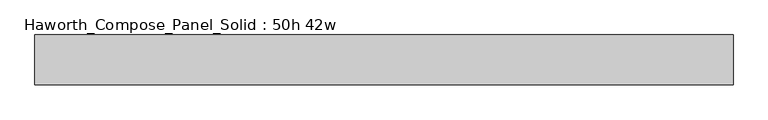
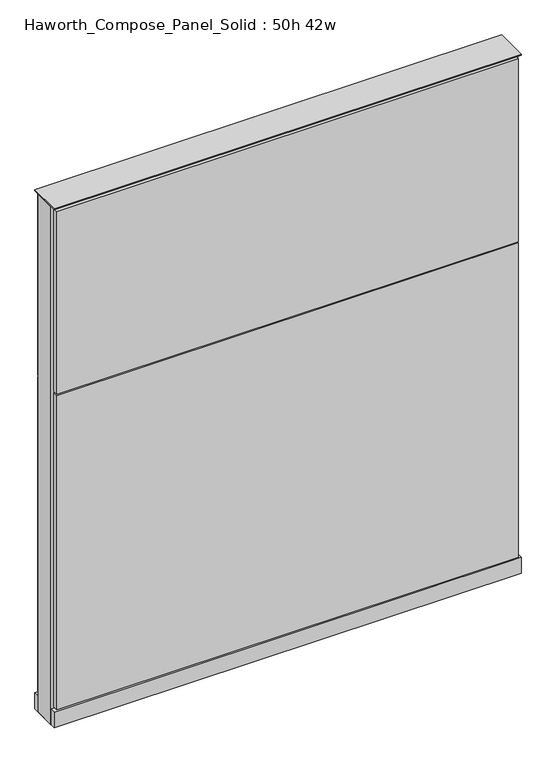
"""IFC4 building model written with IfcOpenShell, lengths in millimetres: furniture geometry, Haworth_Compose_Panel_Solid : 50h 42w."""

from ifc_helpers import new_model, si_unit, point, frame, frame_2d, origin, origin_with_axes, place, context, project, spatial, polyline, circle_curve, trimmed, segment, composite_curve, outline, extrude, source, transform, mapped, element, save


def haworth_compose_panel_solid_50h_42w_a5b8c81b(model_context):
    return source(origin(), model_context, "Body", "SweptSolid", [
        extrude(outline(composite_curve([segment(trimmed(circle_curve(frame_2d((-454.7597098, 0.0)), 12.7), [point((-467.4597098, 0.0))], [point((-442.0597098, 0.0))], False, "CARTESIAN"), True, "CONTINUOUS"), segment(trimmed(circle_curve(frame_2d((-454.7597098, 0.0)), 12.7), [point((-442.0597098, 0.0))], [point((-467.4597098, 0.0))], False, "CARTESIAN"), True, "CONTINUOUS")], self_intersect=False)), origin_with_axes(), (0.0, 0.0, 1.0), 12.7),
        extrude(outline(composite_curve([segment(trimmed(circle_curve(frame_2d((459.6402902, 0.0)), 12.7), [point((446.9402902, 0.0))], [point((472.3402902, 0.0))], False, "CARTESIAN"), True, "CONTINUOUS"), segment(trimmed(circle_curve(frame_2d((459.6402902, 0.0)), 12.7), [point((472.3402902, 0.0))], [point((446.9402902, 0.0))], False, "CARTESIAN"), True, "CONTINUOUS")], self_intersect=False)), origin_with_axes(), (0.0, 0.0, 1.0), 12.7),
        extrude(outline(polyline([(529.4902902, 38.1), (529.4902902, 25.4), (-524.6097098, 25.4), (-524.6097098, 38.1), (529.4902902, 38.1)])), frame((0.0, 0.0, 815.975), z_axis=(0.0, 0.0, 1.0), x_axis=(1.0, 0.0, 0.0)), (0.0, 0.0, 1.0), 441.325),
        extrude(outline(polyline([(529.4902902, 38.1), (529.4902902, 25.4), (-524.6097098, 25.4), (-524.6097098, 38.1), (529.4902902, 38.1)])), frame((0.0, 0.0, 53.975), z_axis=(0.0, 0.0, 1.0), x_axis=(1.0, 0.0, 0.0)), (0.0, 0.0, 1.0), 758.825),
        extrude(outline(polyline([(529.4902902, -38.1), (-524.6097098, -38.1), (-524.6097098, -25.4), (529.4902902, -25.4), (529.4902902, -38.1)])), frame((0.0, 0.0, 815.975), z_axis=(0.0, 0.0, 1.0), x_axis=(1.0, 0.0, 0.0)), (0.0, 0.0, 1.0), 441.325),
        extrude(outline(polyline([(529.4902902, -38.1), (-524.6097098, -38.1), (-524.6097098, -25.4), (529.4902902, -25.4), (529.4902902, -38.1)])), frame((0.0, 0.0, 53.975), z_axis=(0.0, 0.0, 1.0), x_axis=(1.0, 0.0, 0.0)), (0.0, 0.0, 1.0), 758.825),
        extrude(outline(polyline([(535.8402902, 25.4), (535.8402902, -25.4), (-530.9597098, -25.4), (-530.9597098, 25.4), (535.8402902, 25.4)])), frame((0.0, 0.0, 12.7), z_axis=(0.0, 0.0, 1.0), x_axis=(1.0, 0.0, 0.0)), (0.0, 0.0, 1.0), 1250.95),
        extrude(outline(polyline([(-530.9597098, -38.1), (-530.9597098, 38.1), (535.8402902, 38.1), (535.8402902, -38.1), (-530.9597098, -38.1)])), frame((0.0, 0.0, 12.7), z_axis=(0.0, 0.0, 1.0), x_axis=(1.0, 0.0, 0.0)), (0.0, 0.0, 1.0), 38.1),
        extrude(outline(polyline([(-530.9597098, -38.1), (-530.9597098, 38.1), (535.8402902, 38.1), (535.8402902, -38.1), (-530.9597098, -38.1)])), frame((0.0, 0.0, 1263.65), z_axis=(0.0, 0.0, 1.0), x_axis=(1.0, 0.0, 0.0)), (0.0, 0.0, 1.0), 3.175),
    ])


if __name__ == "__main__":
    model = new_model("IFC4")
    model_context = context("Model", 3, world=origin())
    ifc_project = project(units=[si_unit("LENGTHUNIT", "METRE", prefix="MILLI")], contexts=[model_context])
    site = spatial("IfcSite", under=ifc_project)
    building = spatial("IfcBuilding", under=site)
    placement = place(None, origin())
    haworth_compose_panel_solid_50h_42w_shape = haworth_compose_panel_solid_50h_42w_a5b8c81b(model_context)
    element("IfcFurniture", 1, ObjectType="Haworth_Compose_Panel_Solid : 50h 42w", at=placement, inside=building, context=model_context, shape_type="MappedRepresentation", body=[
        mapped(haworth_compose_panel_solid_50h_42w_shape, transform((0.0, 0.0, 0.0), x_axis=(1.0, 0.0, 0.0), y_axis=(0.0, 1.0, 0.0), z_axis=(0.0, 0.0, 1.0))),
    ])
    save(model, "model.ifc")
